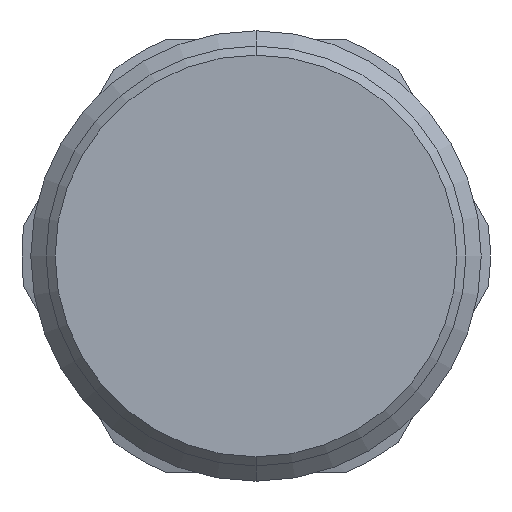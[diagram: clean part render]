
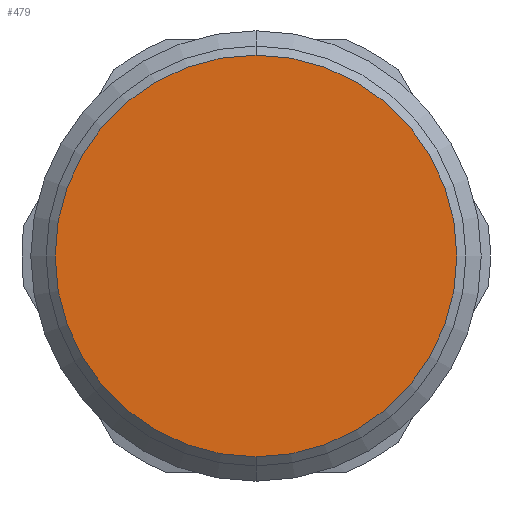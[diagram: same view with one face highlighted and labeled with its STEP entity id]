
A CAD part, front view. The second image highlights one B-rep face of the part: STEP entity #479.
In plain terms, the highlighted planar face has unit normal (0, -1, 0).
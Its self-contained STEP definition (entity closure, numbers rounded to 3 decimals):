
#454=CARTESIAN_POINT('',(0.0,-40.5,11.15));
#455=VERTEX_POINT('',#454);
#456=CARTESIAN_POINT('',(0.0,-40.5,-11.15));
#457=VERTEX_POINT('',#456);
#458=CARTESIAN_POINT('',(0.0,-40.5,0.0));
#459=DIRECTION('',(0.0,-1.0,0.0));
#460=DIRECTION('',(0.0,0.0,1.0));
#461=AXIS2_PLACEMENT_3D('',#458,#459,#460);
#462=CIRCLE('',#461,11.15);
#463=EDGE_CURVE('no 2216',#455,#457,#462,.T.);
#464=ORIENTED_EDGE('',*,*,#463,.T.);
#465=CARTESIAN_POINT('',(0.0,-40.5,0.0));
#466=DIRECTION('',(0.0,-1.0,0.0));
#467=DIRECTION('',(0.0,0.0,1.0));
#468=AXIS2_PLACEMENT_3D('',#465,#466,#467);
#469=CIRCLE('',#468,11.15);
#470=EDGE_CURVE('no 2220',#457,#455,#469,.T.);
#471=ORIENTED_EDGE('',*,*,#470,.T.);
#472=EDGE_LOOP('',(#464,#471));
#473=FACE_OUTER_BOUND('',#472,.T.);
#474=CARTESIAN_POINT('',(0.0,-40.5,0.0));
#475=DIRECTION('',(0.0,1.0,0.0));
#476=DIRECTION('',(0.0,0.0,1.0));
#477=AXIS2_PLACEMENT_3D('',#474,#475,#476);
#478=PLANE('',#477);
#479=ADVANCED_FACE('no 2207',(#473),#478,.F.);
